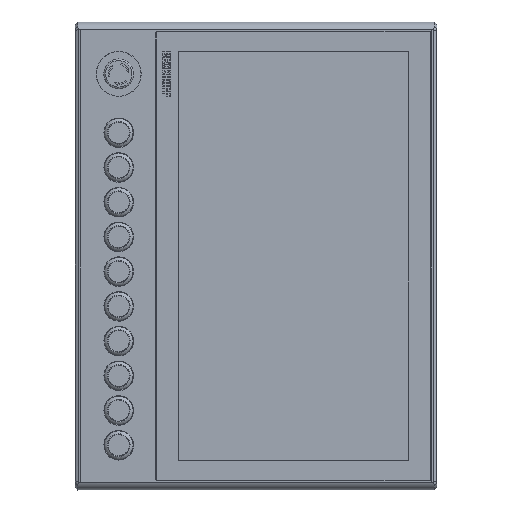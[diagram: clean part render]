
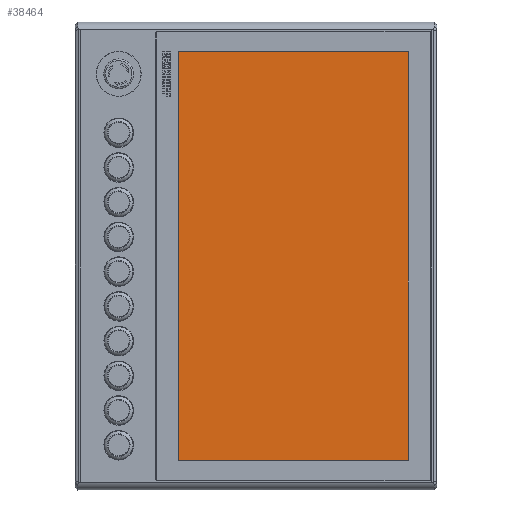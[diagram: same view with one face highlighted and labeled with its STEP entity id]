
A CAD part, top view. The second image highlights one B-rep face of the part: STEP entity #38464.
In plain terms, the highlighted planar face has unit normal (0, 0, 1).
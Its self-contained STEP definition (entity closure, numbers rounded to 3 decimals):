
#4036=FACE_OUTER_BOUND('',#6149,.T.);
#6149=EDGE_LOOP('',(#23869,#23870,#23871,#23872));
#8443=LINE('',#56982,#11367);
#8444=LINE('',#56984,#11368);
#8445=LINE('',#56986,#11369);
#8446=LINE('',#56987,#11370);
#11367=VECTOR('',#45120,10.);
#11368=VECTOR('',#45121,10.);
#11369=VECTOR('',#45122,10.);
#11370=VECTOR('',#45123,10.);
#14291=VERTEX_POINT('',#56980);
#14292=VERTEX_POINT('',#56981);
#14293=VERTEX_POINT('',#56983);
#14294=VERTEX_POINT('',#56985);
#18155=EDGE_CURVE('',#14291,#14292,#8443,.T.);
#18156=EDGE_CURVE('',#14293,#14291,#8444,.T.);
#18157=EDGE_CURVE('',#14294,#14293,#8445,.T.);
#18158=EDGE_CURVE('',#14292,#14294,#8446,.T.);
#23869=ORIENTED_EDGE('',*,*,#18155,.F.);
#23870=ORIENTED_EDGE('',*,*,#18156,.F.);
#23871=ORIENTED_EDGE('',*,*,#18157,.F.);
#23872=ORIENTED_EDGE('',*,*,#18158,.F.);
#35297=PLANE('',#40648);
#38464=ADVANCED_FACE('',(#4036),#35297,.T.);
#40648=AXIS2_PLACEMENT_3D('',#56979,#45118,#45119);
#45118=DIRECTION('center_axis',(0.,0.,1.));
#45119=DIRECTION('ref_axis',(0.,-1.,0.));
#45120=DIRECTION('',(-1.,0.,0.));
#45121=DIRECTION('',(0.,-1.,0.));
#45122=DIRECTION('',(1.,0.,0.));
#45123=DIRECTION('',(0.,1.,0.));
#56979=CARTESIAN_POINT('Origin',(0.,0.,
241.003));
#56980=CARTESIAN_POINT('',(116.1,-205.8,241.003));
#56981=CARTESIAN_POINT('',(-116.1,-205.8,241.003));
#56982=CARTESIAN_POINT('',(-58.05,-205.8,241.003));
#56983=CARTESIAN_POINT('',(116.1,205.8,241.003));
#56984=CARTESIAN_POINT('',(116.1,-102.9,241.003));
#56985=CARTESIAN_POINT('',(-116.1,205.8,241.003));
#56986=CARTESIAN_POINT('',(58.05,205.8,241.003));
#56987=CARTESIAN_POINT('',(-116.1,102.9,241.003));
